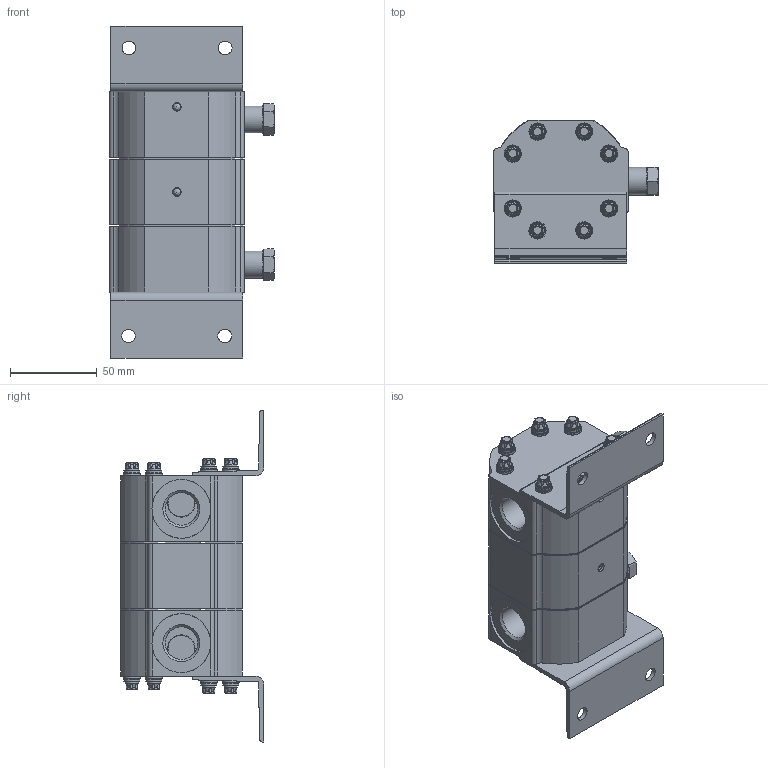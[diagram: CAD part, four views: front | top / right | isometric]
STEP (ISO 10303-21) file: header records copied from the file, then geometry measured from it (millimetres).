
FILE_DESCRIPTION (( 'STEP AP203' ), '1' );
FILE_NAME ('VDR_AGO-K0-01XX.STEP', '2015-04-30T07:28:35', ( '' ), ( '' ), 'SwSTEP 2.0', 'SolidWorks 2012', '' );
FILE_SCHEMA (( 'CONFIG_CONTROL_DESIGN' ));
Products named in the file (1): VDR_AGO-K0-01XX
Bounding box: 95.25 x 82.95 x 191.85 mm (x, y, z)
Surface area: 94563.3 mm2 (no closed solid volume)
Topology: 0 solids, 37 shells, 1031 faces, 2933 edges, 1848 vertices
Faces by surface type: bspline 473, cylinder 322, plane 189, cone 47
Full cylindrical faces by diameter (mm): 4.521 x3, 4.999 x3, 7.671 x16, 7.937 x1, 7.938 x3, 9.271 x14, 9.957 x15, 15.469 x2, 15.875 x4, 18.796 x3, 25.4 x2, 33.985 x3
Entity records: 81542 total; most frequent: CARTESIAN_POINT 60869, ORIENTED_EDGE 4800, DIRECTION 2925, EDGE_CURVE 2584, VERTEX_POINT 1786, EDGE_LOOP 1349, B_SPLINE_CURVE_WITH_KNOTS 1280, AXIS2_PLACEMENT_3D 1199
